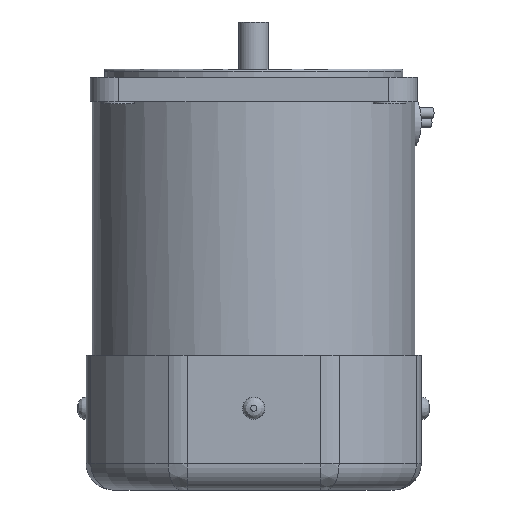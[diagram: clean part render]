
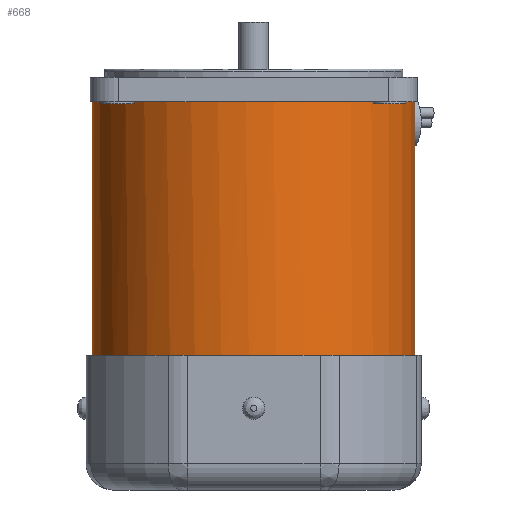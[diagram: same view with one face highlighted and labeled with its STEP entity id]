
A CAD part, front view. The second image highlights one B-rep face of the part: STEP entity #668.
In plain terms, the highlighted cylindrical face has radius 39.5 mm (diameter 79 mm), a full revolution.
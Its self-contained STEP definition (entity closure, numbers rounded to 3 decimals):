
#551=CARTESIAN_POINT('',(34.702,18.869,0.0));
#552=VERTEX_POINT('',#551);
#553=CARTESIAN_POINT('',(37.88,11.195,0.0));
#554=VERTEX_POINT('',#553);
#555=CARTESIAN_POINT('',(34.702,18.869,0.));
#556=CARTESIAN_POINT('',(34.635,18.991,-0.114));
#557=CARTESIAN_POINT('',(34.572,19.107,-0.233));
#558=CARTESIAN_POINT('',(34.51,19.217,-0.355));
#559=CARTESIAN_POINT('',(34.413,19.391,-0.549));
#560=CARTESIAN_POINT('',(34.32,19.556,-0.758));
#561=CARTESIAN_POINT('',(34.231,19.71,-0.983));
#562=CARTESIAN_POINT('',(34.012,20.09,-1.536));
#563=CARTESIAN_POINT('',(33.826,20.398,-2.18));
#564=CARTESIAN_POINT('',(33.701,20.603,-2.862));
#565=CARTESIAN_POINT('',(33.608,20.755,-3.366));
#566=CARTESIAN_POINT('',(33.548,20.851,-3.891));
#567=CARTESIAN_POINT('',(33.523,20.892,-4.407));
#568=CARTESIAN_POINT('',(33.504,20.922,-4.791));
#569=CARTESIAN_POINT('',(33.503,20.923,-5.163));
#570=CARTESIAN_POINT('',(33.521,20.895,-5.547));
#571=CARTESIAN_POINT('',(33.552,20.845,-6.244));
#572=CARTESIAN_POINT('',(33.648,20.692,-6.958));
#573=CARTESIAN_POINT('',(33.801,20.439,-7.62));
#574=CARTESIAN_POINT('',(33.929,20.227,-8.177));
#575=CARTESIAN_POINT('',(34.097,19.944,-8.698));
#576=CARTESIAN_POINT('',(34.285,19.615,-9.151));
#577=CARTESIAN_POINT('',(34.409,19.399,-9.449));
#578=CARTESIAN_POINT('',(34.539,19.168,-9.715));
#579=CARTESIAN_POINT('',(34.681,18.907,-9.964));
#580=CARTESIAN_POINT('',(34.939,18.434,-10.417));
#581=CARTESIAN_POINT('',(35.233,17.87,-10.798));
#582=CARTESIAN_POINT('',(35.53,17.259,-11.061));
#583=CARTESIAN_POINT('',(35.774,16.757,-11.277));
#584=CARTESIAN_POINT('',(36.019,16.224,-11.413));
#585=CARTESIAN_POINT('',(36.248,15.695,-11.47));
#586=CARTESIAN_POINT('',(36.342,15.478,-11.492));
#587=CARTESIAN_POINT('',(36.432,15.264,-11.502));
#588=CARTESIAN_POINT('',(36.521,15.05,-11.5));
#589=CARTESIAN_POINT('',(36.777,14.429,-11.492));
#590=CARTESIAN_POINT('',(37.028,13.769,-11.376));
#591=CARTESIAN_POINT('',(37.252,13.137,-11.145));
#592=CARTESIAN_POINT('',(37.472,12.512,-10.917));
#593=CARTESIAN_POINT('',(37.665,11.912,-10.577));
#594=CARTESIAN_POINT('',(37.822,11.39,-10.161));
#595=CARTESIAN_POINT('',(37.885,11.182,-9.996));
#596=CARTESIAN_POINT('',(37.942,10.986,-9.819));
#597=CARTESIAN_POINT('',(37.994,10.804,-9.634));
#598=CARTESIAN_POINT('',(38.046,10.62,-9.448));
#599=CARTESIAN_POINT('',(38.094,10.445,-9.247));
#600=CARTESIAN_POINT('',(38.139,10.279,-9.032));
#601=CARTESIAN_POINT('',(38.254,9.852,-8.477));
#602=CARTESIAN_POINT('',(38.342,9.499,-7.829));
#603=CARTESIAN_POINT('',(38.399,9.263,-7.143));
#604=CARTESIAN_POINT('',(38.448,9.06,-6.551));
#605=CARTESIAN_POINT('',(38.474,8.943,-5.93));
#606=CARTESIAN_POINT('',(38.481,8.913,-5.329));
#607=CARTESIAN_POINT('',(38.485,8.899,-5.047));
#608=CARTESIAN_POINT('',(38.484,8.903,-4.77));
#609=CARTESIAN_POINT('',(38.479,8.925,-4.485));
#610=CARTESIAN_POINT('',(38.466,8.98,-3.789));
#611=CARTESIAN_POINT('',(38.426,9.152,-3.074));
#612=CARTESIAN_POINT('',(38.357,9.435,-2.411));
#613=CARTESIAN_POINT('',(38.29,9.707,-1.773));
#614=CARTESIAN_POINT('',(38.195,10.081,-1.183));
#615=CARTESIAN_POINT('',(38.076,10.511,-0.684));
#616=CARTESIAN_POINT('',(38.02,10.713,-0.45));
#617=CARTESIAN_POINT('',(37.96,10.925,-0.236));
#618=CARTESIAN_POINT('',(37.891,11.158,-0.033));
#619=CARTESIAN_POINT('',(37.888,11.17,-0.022));
#620=CARTESIAN_POINT('',(37.884,11.182,-0.011));
#621=CARTESIAN_POINT('',(37.88,11.195,0.));
#622=B_SPLINE_CURVE_WITH_KNOTS('',3,(#555,#556,#557,#558,#559,#560,#561,#562,#563,#564,#565,#566,#567,#568,#569,#570,#571,#572,#573,#574,#575,#576,#577,#578,#579,#580,#581,#582,#583,#584,#585,#586,#587,#588,#589,#590,#591,#592,#593,#594,#595,#596,#597,#598,#599,#600,#601,#602,#603,#604,#605,#606,#607,#608,#609,#610,#611,#612,#613,#614,#615,#616,#617,#618,#619,#620,#621),.UNSPECIFIED.,.F.,.U.,(4,3,3,3,3,3,3,3,3,3,3,3,3,3,3,3,3,3,3,3,3,3,4),(-0.55,-0.498,-0.414,-0.21,-0.059,0.054,0.259,0.431,0.544,0.75,0.919,0.988,1.189,1.388,1.467,1.546,1.752,1.93,2.014,2.218,2.415,2.508,2.513),.UNSPECIFIED.);
#623=EDGE_CURVE('',#552,#554,#622,.T.);
#642=CARTESIAN_POINT('',(0.0,0.0,0.0));
#643=DIRECTION('',(0.0,0.0,-1.0));
#644=DIRECTION('',(1.0,0.0,0.0));
#645=AXIS2_PLACEMENT_3D('',#642,#643,#644);
#646=CYLINDRICAL_SURFACE('',#645,39.5);
#647=CARTESIAN_POINT('',(-39.5,0.,-72.0));
#648=VERTEX_POINT('',#647);
#649=CARTESIAN_POINT('',(0.0,0.0,-72.0));
#650=DIRECTION('',(0.0,0.0,1.0));
#651=DIRECTION('',(1.0,0.0,0.0));
#652=AXIS2_PLACEMENT_3D('',#649,#650,#651);
#653=CIRCLE('',#652,39.5);
#654=EDGE_CURVE('',#648,#648,#653,.T.);
#655=ORIENTED_EDGE('',*,*,#654,.T.);
#656=EDGE_LOOP('',(#655));
#657=FACE_OUTER_BOUND('',#656,.T.);
#658=ORIENTED_EDGE('',*,*,#623,.T.);
#659=CARTESIAN_POINT('',(0.0,0.0,0.0));
#660=DIRECTION('',(0.0,0.0,1.0));
#661=DIRECTION('',(1.0,0.0,0.0));
#662=AXIS2_PLACEMENT_3D('',#659,#660,#661);
#663=CIRCLE('',#662,39.5);
#664=EDGE_CURVE('',#552,#554,#663,.T.);
#665=ORIENTED_EDGE('',*,*,#664,.F.);
#666=EDGE_LOOP('',(#658,#665));
#667=FACE_BOUND('',#666,.T.);
#668=ADVANCED_FACE('',(#657,#667),#646,.T.);
